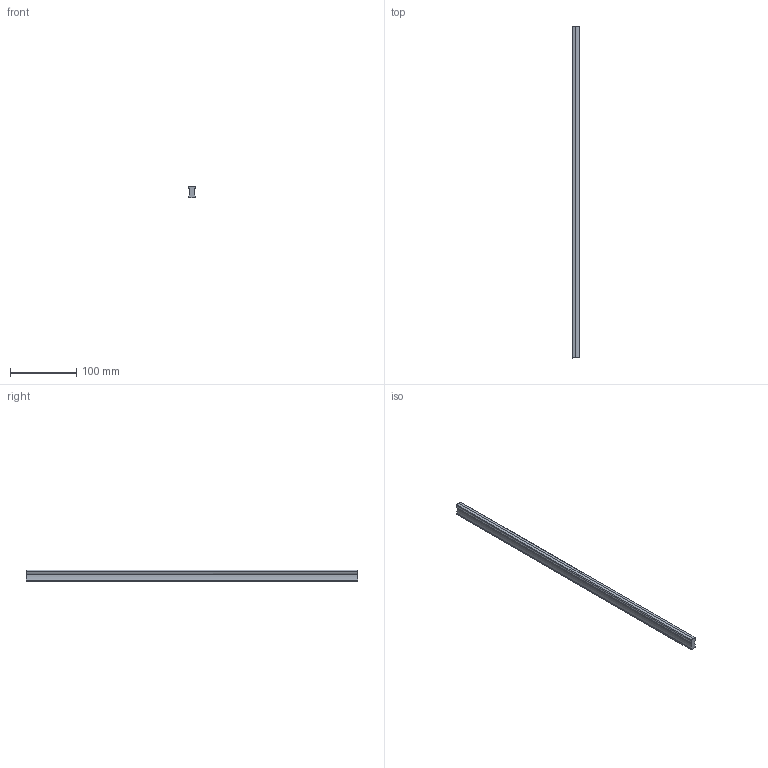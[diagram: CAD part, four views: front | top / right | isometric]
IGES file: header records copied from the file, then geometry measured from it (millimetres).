
Start section: C
Global section: file name: 8192-500.igs; native system: By Siemens PLM Incorporated; preprocessor: XPlus GENERIC/IGES 16.0.42; author: Author; organization: Title; date: 20231211.124754; units: millimetre
Bounding box: 10 x 500 x 18 mm (x, y, z)
Surface area: 28539.7 mm2 (no closed solid volume)
Topology: 0 solids, 0 shells, 25 faces, 130 edges, 130 vertices
Faces by surface type: bspline 25
